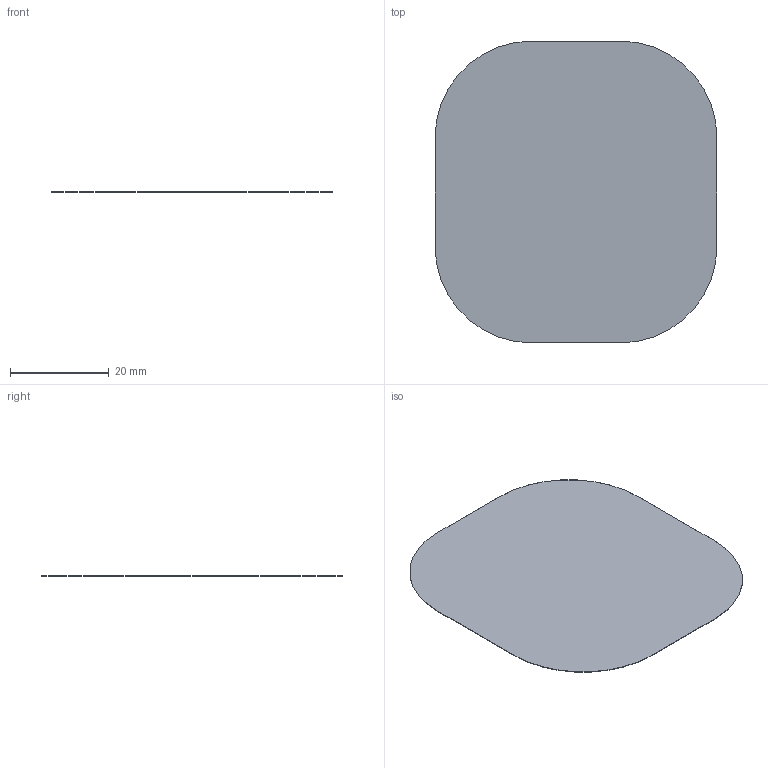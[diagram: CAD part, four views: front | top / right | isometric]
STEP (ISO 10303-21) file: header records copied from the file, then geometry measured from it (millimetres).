
FILE_DESCRIPTION(('Open CASCADE Model'),'2;1');
FILE_NAME('Open CASCADE Shape Model','2026-09-08T16:17:04',('Author'),( 'Open CASCADE'),'Open CASCADE STEP processor 7.7','Open CASCADE 7.7' ,'Unknown');
FILE_SCHEMA(('AUTOMOTIVE_DESIGN { 1 0 10303 214 1 1 1 1 }'));
Length unit declared in the file: millimetre
Products named in the file (1): Open CASCADE STEP translator 7.7 14
Bounding box: 57 x 61 x 0.1 mm (x, y, z)
Volume: 315.1 mm3; surface area: 6321.4 mm2
Topology: 1 solids, 1 shells, 10 faces, 24 edges, 16 vertices
Faces by surface type: plane 6, cylinder 4
Entity records: 630 total; most frequent: CARTESIAN_POINT 123, DIRECTION 98, LINE 56, VECTOR 56, ORIENTED_EDGE 48, PCURVE 48, DEFINITIONAL_REPRESENTATION 48, EDGE_CURVE 24
